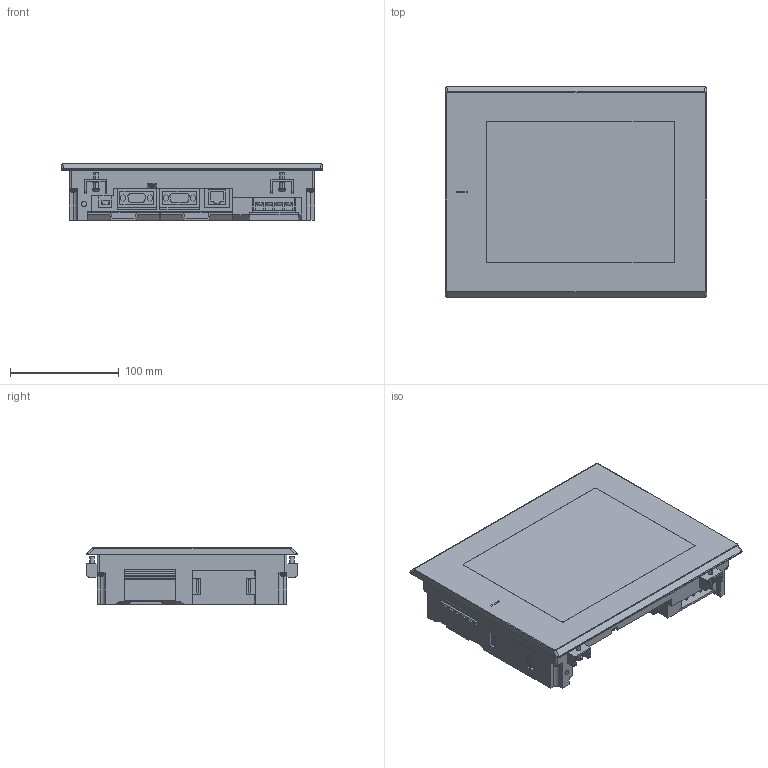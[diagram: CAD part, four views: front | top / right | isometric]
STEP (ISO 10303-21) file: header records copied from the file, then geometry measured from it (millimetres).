
FILE_DESCRIPTION((''),'2;1');
FILE_NAME('GT2508_ASM','2014-02-20T',('KW48605'),(''),'PRO/ENGINEER BY PARAMETRIC TECHNOLOGY CORPORATION, 2011490','PRO/ENGINEER BY PARAMETRIC TECHNOLOGY CORPORATION, 2011490','');
FILE_SCHEMA(('CONFIG_CONTROL_DESIGN'));
Length unit declared in the file: millimetre
Products named in the file (6): GT2508; COVER_1; COVER_2; COVER_3; TORITUKE; GT2508_ASM
Assembly tree (9 placements, depth 2):
  GT2508_ASM
    GT2508
    COVER_1  x2
    COVER_2
    COVER_3
    TORITUKE  x4
Bounding box: 241 x 195 x 52 mm (x, y, z)
Volume: 1832503.6 mm3; surface area: 187996.4 mm2
Topology: 9 solids, 13 shells, 726 faces, 1996 edges, 1324 vertices
Faces by surface type: plane 462, cylinder 174, cone 30, sphere 26, torus 20, bspline 14
Entity records: 22186 total; most frequent: CARTESIAN_POINT 6110, ORIENTED_EDGE 3424, DIRECTION 3166, EDGE_CURVE 1712, VECTOR 1172, LINE 1172, VERTEX_POINT 1152, AXIS2_PLACEMENT_3D 997
